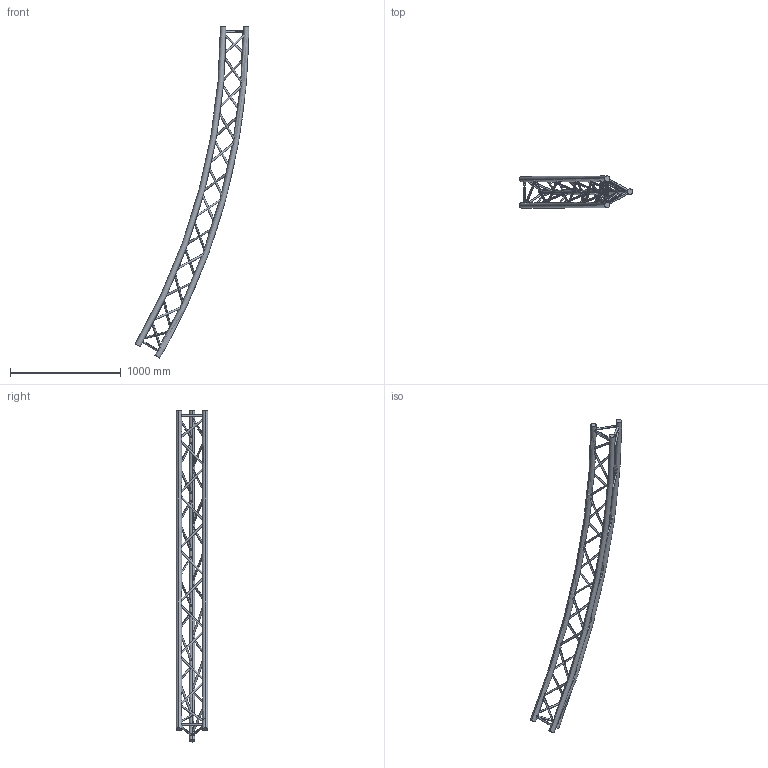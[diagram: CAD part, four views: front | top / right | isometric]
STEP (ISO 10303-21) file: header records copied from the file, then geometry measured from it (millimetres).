
FILE_DESCRIPTION (( 'STEP AP203' ), '1' );
FILE_NAME ('SXC291200PE.STEP', '2009-10-21T09:19:07', ( 'CEDIA' ), ( 'CEDIA INDUSTRIE' ), 'SwSTEP 2.0', 'SolidWorks 2009', '' );
FILE_SCHEMA (( 'CONFIG_CONTROL_DESIGN' ));
Length unit declared in the file: millimetre
Products named in the file (1): SXC291200PE
Bounding box: 1024.9 x 287 x 3000 mm (x, y, z)
Volume: 20160454.9 mm3; surface area: 1969470 mm2
Topology: 1 solids, 1 shells, 96 faces, 270 edges, 180 vertices
Faces by surface type: cylinder 84, torus 6, plane 6
Entity records: 10761 total; most frequent: CARTESIAN_POINT 8355, ORIENTED_EDGE 540, DIRECTION 314, EDGE_CURVE 270, VERTEX_POINT 180, EDGE_LOOP 180, B_SPLINE_CURVE_WITH_KNOTS 168, AXIS2_PLACEMENT_3D 115
